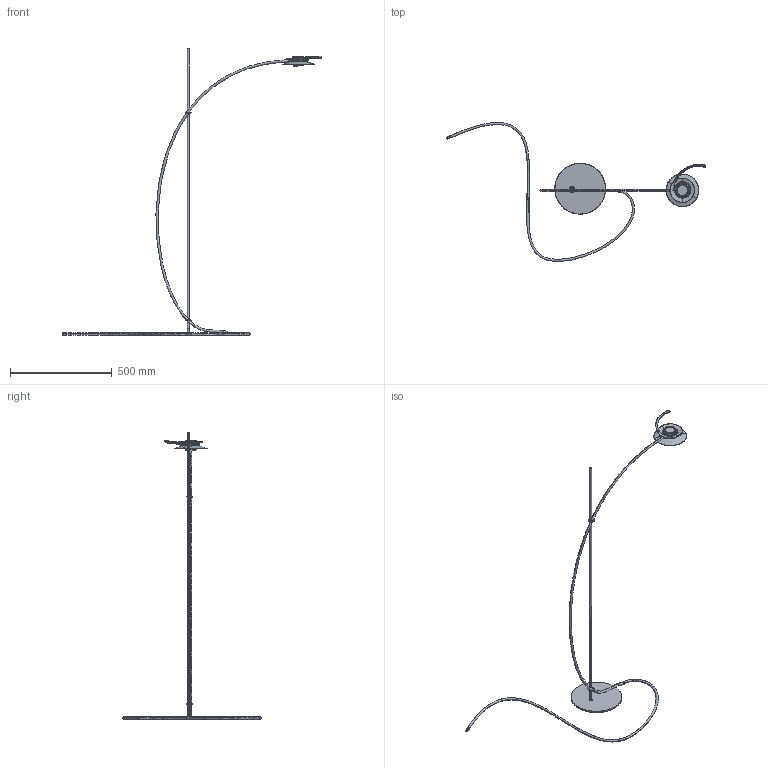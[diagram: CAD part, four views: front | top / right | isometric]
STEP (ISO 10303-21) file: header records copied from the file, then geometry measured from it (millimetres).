
FILE_DESCRIPTION(/* description */ (''),/* implementation_level */ '2;1');
FILE_NAME(/* name */ 'MSBOWJ~1',/* time_stamp */ '2024-10-30T17:05:05+01:00',/* author */ (''),/* organization */ (''),/* preprocessor_version */ 'ST-DEVELOPER v16.5',/* originating_system */ '',/* authorisation */ '');
FILE_SCHEMA (('AUTOMOTIVE_DESIGN'));
Length unit declared in the file: millimetre
Products named in the file (1): Document
Bounding box: 1273.68 x 683.1 x 1406.5 mm (x, y, z)
Volume: 905881.9 mm3; surface area: 455530.7 mm2
Topology: 19 solids, 21 shells, 1161 faces, 2899 edges, 1736 vertices
Faces by surface type: bspline 970, plane 191
Entity records: 74033 total; most frequent: CARTESIAN_POINT 57271, ORIENTED_EDGE 5706, EDGE_CURVE 2853, B_SPLINE_CURVE_WITH_KNOTS 1751, VERTEX_POINT 1736, EDGE_LOOP 1239, ADVANCED_FACE 1161, FACE_OUTER_BOUND 1161
